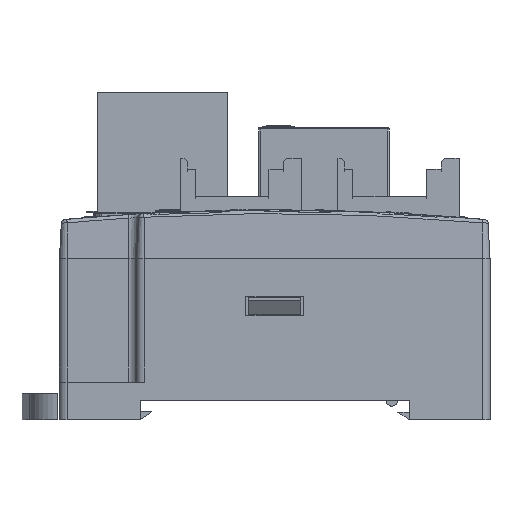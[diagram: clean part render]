
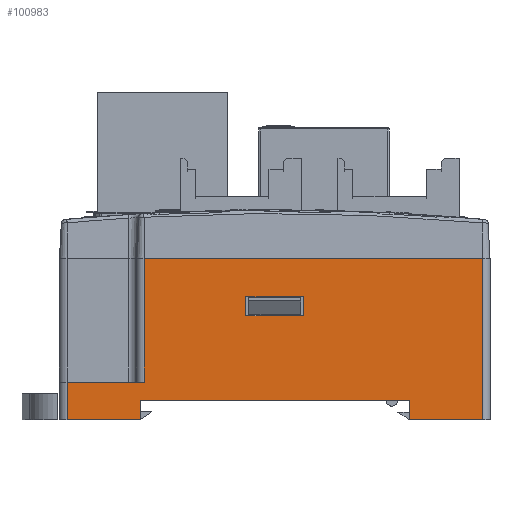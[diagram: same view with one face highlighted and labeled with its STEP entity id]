
A CAD part, front view. The second image highlights one B-rep face of the part: STEP entity #100983.
In plain terms, the highlighted planar face has unit normal (0, -1, 0).
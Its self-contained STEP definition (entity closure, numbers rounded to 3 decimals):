
#6847=DIRECTION('',(0.,0.,-1.));
#6848=VECTOR('',#6847,21.);
#6849=CARTESIAN_POINT('',(27.,-60.,0.));
#6850=LINE('',#6849,#6848);
#6907=DIRECTION('',(0.,0.,-1.));
#6908=VECTOR('',#6907,2.5);
#6909=CARTESIAN_POINT('',(17.5,-60.,-18.5));
#6910=LINE('',#6909,#6908);
#7500=DIRECTION('',(0.,0.,1.));
#7501=VECTOR('',#7500,16.1);
#7502=CARTESIAN_POINT('',(-17.,-60.,-16.1));
#7503=LINE('',#7502,#7501);
#7508=DIRECTION('',(1.,0.,0.));
#7509=VECTOR('',#7508,9.5);
#7510=CARTESIAN_POINT('',(17.5,-60.,-21.));
#7511=LINE('',#7510,#7509);
#7512=DIRECTION('',(1.,0.,0.));
#7513=VECTOR('',#7512,9.5);
#7514=CARTESIAN_POINT('',(-27.,-60.,-21.));
#7515=LINE('',#7514,#7513);
#7516=DIRECTION('',(0.,0.,1.));
#7517=VECTOR('',#7516,2.5);
#7518=CARTESIAN_POINT('',(-3.75,-60.,-7.5));
#7519=LINE('',#7518,#7517);
#7588=DIRECTION('',(1.,0.,0.));
#7589=VECTOR('',#7588,7.5);
#7590=CARTESIAN_POINT('',(-3.75,-60.,-5.));
#7591=LINE('',#7590,#7589);
#7779=DIRECTION('',(0.,0.,-1.));
#7780=VECTOR('',#7779,2.5);
#7781=CARTESIAN_POINT('',(3.75,-60.,-5.));
#7782=LINE('',#7781,#7780);
#7787=DIRECTION('',(-1.,0.,0.));
#7788=VECTOR('',#7787,7.5);
#7789=CARTESIAN_POINT('',(3.75,-60.,-7.5));
#7790=LINE('',#7789,#7788);
#7799=DIRECTION('',(-1.,0.,0.));
#7800=VECTOR('',#7799,35.);
#7801=CARTESIAN_POINT('',(17.5,-60.,-18.5));
#7802=LINE('',#7801,#7800);
#7807=DIRECTION('',(0.,0.,1.));
#7808=VECTOR('',#7807,2.5);
#7809=CARTESIAN_POINT('',(-17.5,-60.,-21.));
#7810=LINE('',#7809,#7808);
#33997=DIRECTION('',(1.,0.,0.));
#33998=VECTOR('',#33997,10.);
#33999=CARTESIAN_POINT('',(-27.,-60.,-16.1));
#34000=LINE('',#33999,#33998);
#34034=DIRECTION('',(0.,0.,1.));
#34035=VECTOR('',#34034,4.9);
#34036=CARTESIAN_POINT('',(-27.,-60.,-21.));
#34037=LINE('',#34036,#34035);
#34127=DIRECTION('',(1.,0.,0.));
#34128=VECTOR('',#34127,44.);
#34129=CARTESIAN_POINT('',(-17.,-60.,0.));
#34130=LINE('',#34129,#34128);
#74653=CARTESIAN_POINT('',(-17.5,-60.,-21.));
#74654=VERTEX_POINT('',#74653);
#74655=CARTESIAN_POINT('',(-27.,-60.,-21.));
#74656=VERTEX_POINT('',#74655);
#74683=CARTESIAN_POINT('',(27.,-60.,-21.));
#74684=VERTEX_POINT('',#74683);
#74685=CARTESIAN_POINT('',(17.5,-60.,-21.));
#74686=VERTEX_POINT('',#74685);
#74755=CARTESIAN_POINT('',(17.5,-60.,-18.5));
#74756=CARTESIAN_POINT('',(-17.5,-60.,-18.5));
#74757=VERTEX_POINT('',#74755);
#74758=VERTEX_POINT('',#74756);
#74759=CARTESIAN_POINT('',(-27.,-60.,-16.1));
#74760=VERTEX_POINT('',#74759);
#74761=CARTESIAN_POINT('',(-17.,-60.,-16.1));
#74762=VERTEX_POINT('',#74761);
#74763=CARTESIAN_POINT('',(-3.75,-60.,-7.5));
#74764=CARTESIAN_POINT('',(-3.75,-60.,-5.));
#74765=VERTEX_POINT('',#74763);
#74766=VERTEX_POINT('',#74764);
#74767=CARTESIAN_POINT('',(3.75,-60.,-7.5));
#74768=VERTEX_POINT('',#74767);
#74769=CARTESIAN_POINT('',(3.75,-60.,-5.));
#74770=VERTEX_POINT('',#74769);
#90894=CARTESIAN_POINT('',(-17.,-60.,0.));
#90895=CARTESIAN_POINT('',(27.,-60.,0.));
#90896=VERTEX_POINT('',#90894);
#90897=VERTEX_POINT('',#90895);
#100950=CARTESIAN_POINT('',(0.,-60.,-10.5));
#100951=DIRECTION('',(0.,1.,0.));
#100952=DIRECTION('',(1.,0.,0.));
#100953=AXIS2_PLACEMENT_3D('',#100950,#100951,#100952);
#100954=PLANE('',#100953);
#100955=ORIENTED_EDGE('',*,*,#99777,.T.);
#100956=ORIENTED_EDGE('',*,*,#99798,.F.);
#100957=ORIENTED_EDGE('',*,*,#99896,.F.);
#100959=ORIENTED_EDGE('',*,*,#100958,.T.);
#100961=ORIENTED_EDGE('',*,*,#100960,.F.);
#100963=ORIENTED_EDGE('',*,*,#100962,.F.);
#100965=ORIENTED_EDGE('',*,*,#100964,.T.);
#100967=ORIENTED_EDGE('',*,*,#100966,.T.);
#100968=ORIENTED_EDGE('',*,*,#100934,.T.);
#100970=ORIENTED_EDGE('',*,*,#100969,.T.);
#100971=EDGE_LOOP('',(#100955,#100956,#100957,#100959,#100961,#100963,#100965,
#100967,#100968,#100970));
#100972=FACE_OUTER_BOUND('',#100971,.F.);
#100974=ORIENTED_EDGE('',*,*,#100973,.F.);
#100976=ORIENTED_EDGE('',*,*,#100975,.F.);
#100978=ORIENTED_EDGE('',*,*,#100977,.F.);
#100980=ORIENTED_EDGE('',*,*,#100979,.F.);
#100981=EDGE_LOOP('',(#100974,#100976,#100978,#100980));
#100982=FACE_BOUND('',#100981,.F.);
#100983=ADVANCED_FACE('',(#100972,#100982),#100954,.F.);
#99777=EDGE_CURVE('',#90897,#74684,#6850,.T.);
#99798=EDGE_CURVE('',#74686,#74684,#7511,.T.);
#99896=EDGE_CURVE('',#74757,#74686,#6910,.T.);
#100934=EDGE_CURVE('',#74762,#90896,#7503,.T.);
#100958=EDGE_CURVE('',#74757,#74758,#7802,.T.);
#100960=EDGE_CURVE('',#74654,#74758,#7810,.T.);
#100962=EDGE_CURVE('',#74656,#74654,#7515,.T.);
#100964=EDGE_CURVE('',#74656,#74760,#34037,.T.);
#100966=EDGE_CURVE('',#74760,#74762,#34000,.T.);
#100969=EDGE_CURVE('',#90896,#90897,#34130,.T.);
#100973=EDGE_CURVE('',#74765,#74766,#7519,.T.);
#100975=EDGE_CURVE('',#74768,#74765,#7790,.T.);
#100977=EDGE_CURVE('',#74770,#74768,#7782,.T.);
#100979=EDGE_CURVE('',#74766,#74770,#7591,.T.);
